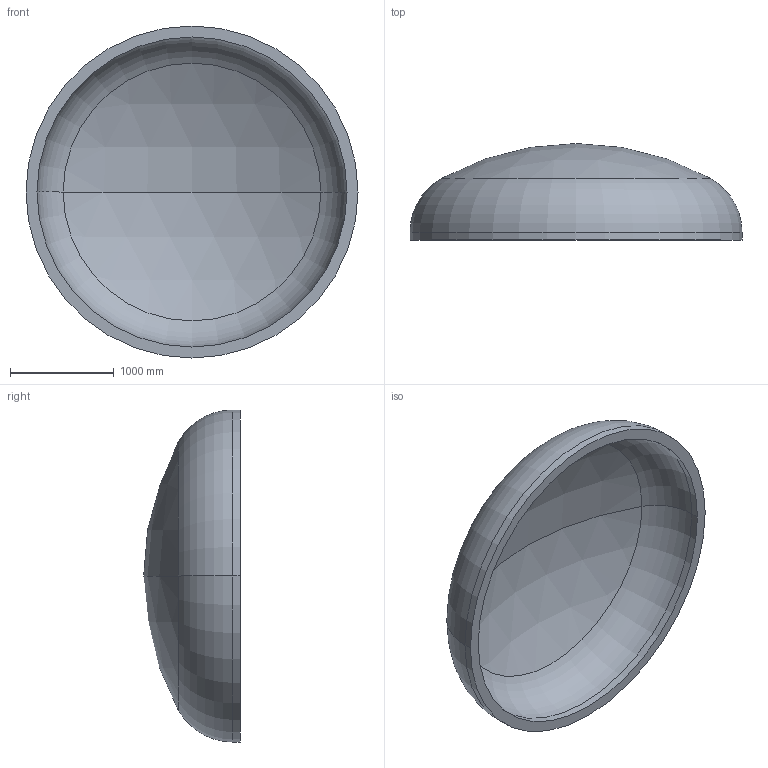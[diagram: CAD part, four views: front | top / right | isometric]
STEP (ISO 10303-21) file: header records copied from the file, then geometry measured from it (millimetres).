
FILE_DESCRIPTION (( 'STEP AP203' ), '1' );
FILE_NAME ('DIN 28013 Korbbogenform_-_Boden DIN 28013 - 3200 x 75 - I - s=106.step', '2016-07-01T19:00:16', ( '' ), ( '' ), 'SwSTEP 2.0', 'SolidWorks 2013', '' );
FILE_SCHEMA (( 'CONFIG_CONTROL_DESIGN' ));
Length unit declared in the file: millimetre
Products named in the file (1): DIN 28013 Korbbogenform_-_Boden DIN 28013 - 3200 x 75 - I - s=106
Bounding box: 3200 x 930.78 x 3200 mm (x, y, z)
Volume: 1206804143 mm3; surface area: 23823743.9 mm2
Topology: 1 solids, 1 shells, 13 faces, 24 edges, 14 vertices
Faces by surface type: torus 4, cylinder 4, sphere 4, plane 1
Entity records: 407 total; most frequent: DIRECTION 72, CARTESIAN_POINT 52, ORIENTED_EDGE 48, AXIS2_PLACEMENT_3D 34, EDGE_CURVE 24, CIRCLE 20, VERTEX_POINT 14, EDGE_LOOP 14
